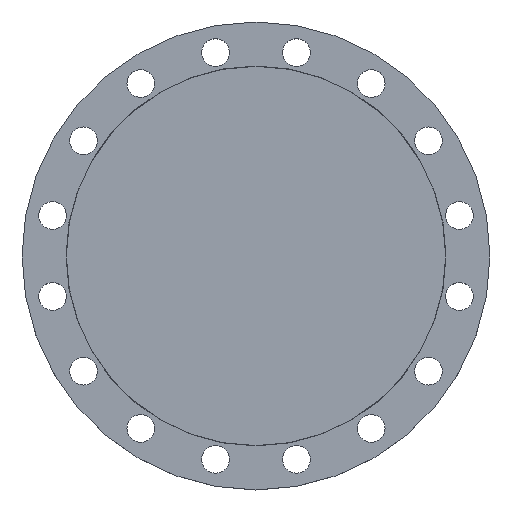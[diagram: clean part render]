
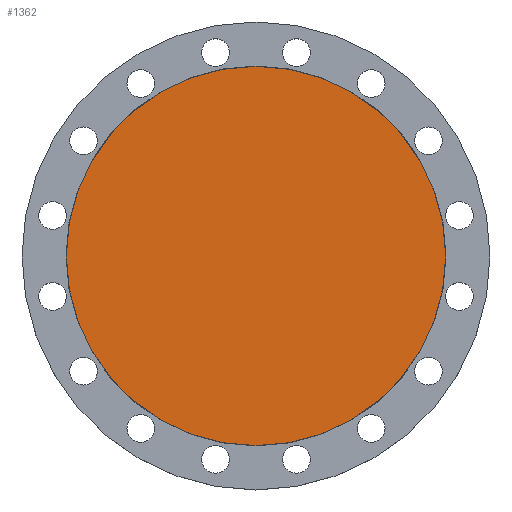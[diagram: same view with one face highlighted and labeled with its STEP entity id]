
A CAD part, top view. The second image highlights one B-rep face of the part: STEP entity #1362.
In plain terms, the highlighted planar face has unit normal (0, 0, 1).
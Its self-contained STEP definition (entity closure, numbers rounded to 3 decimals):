
#377 = DIRECTION ( 'NONE',  ( -1., 0., 0. ) ) ;
#440 = AXIS2_PLACEMENT_3D ( 'NONE', #1035, #1340, #377 ) ;
#456 = DIRECTION ( 'NONE',  ( 1., 0., 0. ) ) ;
#576 = EDGE_LOOP ( 'NONE', ( #812, #813 ) ) ;
#588 = DIRECTION ( 'NONE',  ( -1., 0., 0. ) ) ;
#634 = PLANE ( 'NONE',  #1208 ) ;
#812 = ORIENTED_EDGE ( 'NONE', *, *, #1031, .F. ) ;
#813 = ORIENTED_EDGE ( 'NONE', *, *, #1321, .F. ) ;
#839 = CIRCLE ( 'NONE', #867, 267.5 ) ;
#867 = AXIS2_PLACEMENT_3D ( 'NONE', #1135, #1386, #588 ) ;
#907 = CARTESIAN_POINT ( 'NONE',  ( 267.5, 0., 0. ) ) ;
#1031 = EDGE_CURVE ( 'NONE', #1090, #1075, #839, .T. ) ;
#1035 = CARTESIAN_POINT ( 'NONE',  ( 0., 0., 0. ) ) ;
#1053 = CARTESIAN_POINT ( 'NONE',  ( 0., 0., 0. ) ) ;
#1075 = VERTEX_POINT ( 'NONE', #907 ) ;
#1090 = VERTEX_POINT ( 'NONE', #1363 ) ;
#1135 = CARTESIAN_POINT ( 'NONE',  ( 0., 0., 0. ) ) ;
#1208 = AXIS2_PLACEMENT_3D ( 'NONE', #1053, #1364, #456 ) ;
#1321 = EDGE_CURVE ( 'NONE', #1075, #1090, #1323, .T. ) ;
#1323 = CIRCLE ( 'NONE', #440, 267.5 ) ;
#1340 = DIRECTION ( 'NONE',  ( 0., 0., -1. ) ) ;
#1362 = ADVANCED_FACE ( 'NONE', ( #1394 ), #634, .T. ) ;
#1363 = CARTESIAN_POINT ( 'NONE',  ( -267.5, 0., 0. ) ) ;
#1364 = DIRECTION ( 'NONE',  ( 0., 0., 1. ) ) ;
#1386 = DIRECTION ( 'NONE',  ( 0., 0., -1. ) ) ;
#1394 = FACE_OUTER_BOUND ( 'NONE', #576, .T. ) ;
